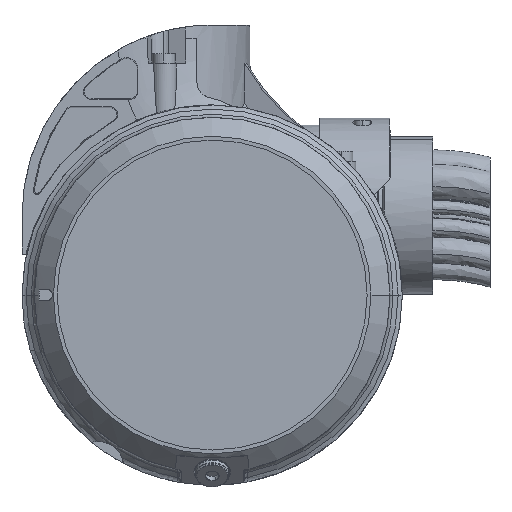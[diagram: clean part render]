
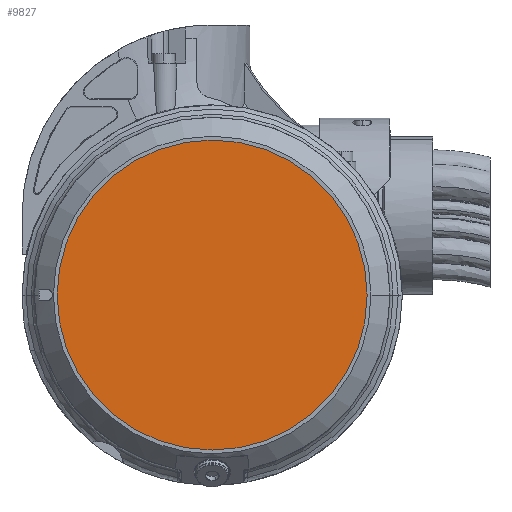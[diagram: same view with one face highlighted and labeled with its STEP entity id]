
A CAD part, left-side view. The second image highlights one B-rep face of the part: STEP entity #9827.
In plain terms, the highlighted planar face has unit normal (-1, 0, 0).
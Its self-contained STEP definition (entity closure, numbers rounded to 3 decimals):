
#190 = CARTESIAN_POINT ( 'NONE',  ( 2071.5, -81.5, 2266. ) ) ;
#1295 = EDGE_LOOP ( 'NONE', ( #36242, #39362 ) ) ;
#1306 = EDGE_CURVE ( 'NONE', #27398, #20560, #38400, .T. ) ;
#3979 = DIRECTION ( 'NONE',  ( 0., -1., 0. ) ) ;
#5994 = AXIS2_PLACEMENT_3D ( 'NONE', #28477, #8513, #21223 ) ;
#7309 = CARTESIAN_POINT ( 'NONE',  ( 2071.5, 81.5, 2266. ) ) ;
#8513 = DIRECTION ( 'NONE',  ( -1., 0., 0. ) ) ;
#9808 = CARTESIAN_POINT ( 'NONE',  ( 2071.5, 0., 2266. ) ) ;
#9827 = ADVANCED_FACE ( 'NONE', ( #37172 ), #17495, .T. ) ;
#12887 = AXIS2_PLACEMENT_3D ( 'NONE', #9808, #22525, #3979 ) ;
#13010 = AXIS2_PLACEMENT_3D ( 'NONE', #20136, #23694, #23485 ) ;
#14618 = EDGE_CURVE ( 'NONE', #20560, #27398, #38256, .T. ) ;
#17495 = PLANE ( 'NONE',  #5994 ) ;
#20136 = CARTESIAN_POINT ( 'NONE',  ( 2071.5, 0., 2266. ) ) ;
#20560 = VERTEX_POINT ( 'NONE', #190 ) ;
#21223 = DIRECTION ( 'NONE',  ( 0., 0., 1. ) ) ;
#22525 = DIRECTION ( 'NONE',  ( -1., 0., 0. ) ) ;
#23485 = DIRECTION ( 'NONE',  ( 0., -1., 0. ) ) ;
#23694 = DIRECTION ( 'NONE',  ( -1., 0., 0. ) ) ;
#27398 = VERTEX_POINT ( 'NONE', #7309 ) ;
#28477 = CARTESIAN_POINT ( 'NONE',  ( 2071.5, 18.5, 2266. ) ) ;
#36242 = ORIENTED_EDGE ( 'NONE', *, *, #14618, .T. ) ;
#37172 = FACE_OUTER_BOUND ( 'NONE', #1295, .T. ) ;
#38256 = CIRCLE ( 'NONE', #12887, 81.5 ) ;
#38400 = CIRCLE ( 'NONE', #13010, 81.5 ) ;
#39362 = ORIENTED_EDGE ( 'NONE', *, *, #1306, .T. ) ;
